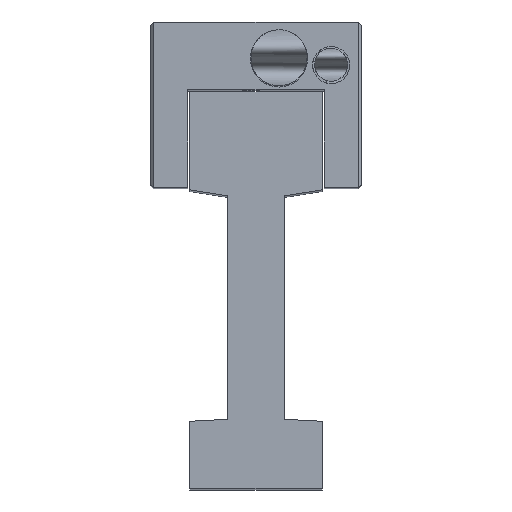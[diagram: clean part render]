
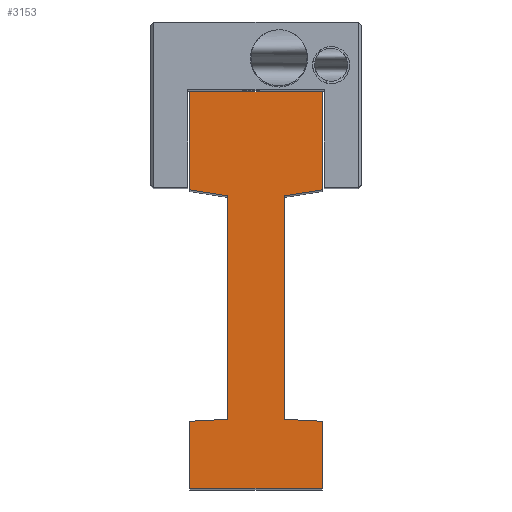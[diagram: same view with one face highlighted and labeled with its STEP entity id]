
A CAD part, top view. The second image highlights one B-rep face of the part: STEP entity #3153.
In plain terms, the highlighted planar face has unit normal (0, 0, 1).
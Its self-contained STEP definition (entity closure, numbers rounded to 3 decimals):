
#399 = CARTESIAN_POINT ( 'NONE',  ( -2.8, -32.7, 0. ) ) ;
#1102 = DIRECTION ( 'NONE',  ( 0., 1., 0. ) ) ;
#1468 = CARTESIAN_POINT ( 'NONE',  ( 2.8, -10.4, 0. ) ) ;
#1545 = ORIENTED_EDGE ( 'NONE', *, *, #14603, .T. ) ;
#1618 = VERTEX_POINT ( 'NONE', #21252 ) ;
#1765 = CARTESIAN_POINT ( 'NONE',  ( 6.6, -32.9, 0. ) ) ;
#3153 = ADVANCED_FACE ( 'NONE', ( #10205 ), #12686, .F. ) ;
#3766 = LINE ( 'NONE', #1765, #32353 ) ;
#4092 = VECTOR ( 'NONE', #12539, 1000. ) ;
#4831 = LINE ( 'NONE', #16476, #18712 ) ;
#5406 = CARTESIAN_POINT ( 'NONE',  ( -2.8, -32.7, 0. ) ) ;
#5704 = DIRECTION ( 'NONE',  ( 0.988, -0.156, 0. ) ) ;
#5815 = EDGE_CURVE ( 'NONE', #28889, #28780, #26200, .T. ) ;
#6283 = DIRECTION ( 'NONE',  ( 0., -1., 0. ) ) ;
#6675 = ORIENTED_EDGE ( 'NONE', *, *, #13195, .T. ) ;
#6865 = DIRECTION ( 'NONE',  ( -1., 0., 0. ) ) ;
#6978 = DIRECTION ( 'NONE',  ( 0., 0., -1. ) ) ;
#7217 = CARTESIAN_POINT ( 'NONE',  ( 0., 0., 0. ) ) ;
#7817 = VERTEX_POINT ( 'NONE', #18096 ) ;
#7960 = DIRECTION ( 'NONE',  ( 0., -1., 0. ) ) ;
#8158 = DIRECTION ( 'NONE',  ( -0.999, -0.053, 0. ) ) ;
#8680 = EDGE_CURVE ( 'NONE', #1618, #27807, #35874, .T. ) ;
#9206 = CARTESIAN_POINT ( 'NONE',  ( -2.8, -10.4, 0. ) ) ;
#9547 = VECTOR ( 'NONE', #1102, 1000. ) ;
#9879 = EDGE_CURVE ( 'NONE', #30664, #27413, #3766, .T. ) ;
#9975 = VECTOR ( 'NONE', #8158, 1000. ) ;
#10129 = CARTESIAN_POINT ( 'NONE',  ( 2.8, -10.4, 0. ) ) ;
#10205 = FACE_OUTER_BOUND ( 'NONE', #11302, .T. ) ;
#11302 = EDGE_LOOP ( 'NONE', ( #13485, #21368, #13544, #1545, #34187, #27231, #32471, #19506, #22745, #34068, #18321, #6675 ) ) ;
#11462 = VECTOR ( 'NONE', #7960, 1000. ) ;
#12131 = AXIS2_PLACEMENT_3D ( 'NONE', #7217, #6978, #6865 ) ;
#12147 = VERTEX_POINT ( 'NONE', #25548 ) ;
#12519 = CARTESIAN_POINT ( 'NONE',  ( 6.6, -9.8, 0. ) ) ;
#12539 = DIRECTION ( 'NONE',  ( 0., -1., 0. ) ) ;
#12654 = CARTESIAN_POINT ( 'NONE',  ( -2.8, -10.4, 0. ) ) ;
#12686 = PLANE ( 'NONE',  #12131 ) ;
#12779 = DIRECTION ( 'NONE',  ( 0., 1., 0. ) ) ;
#13195 = EDGE_CURVE ( 'NONE', #17553, #27085, #22327, .T. ) ;
#13485 = ORIENTED_EDGE ( 'NONE', *, *, #15852, .T. ) ;
#13544 = ORIENTED_EDGE ( 'NONE', *, *, #27717, .T. ) ;
#14001 = DIRECTION ( 'NONE',  ( -1., 0., 0. ) ) ;
#14603 = EDGE_CURVE ( 'NONE', #15313, #28889, #19160, .T. ) ;
#14625 = LINE ( 'NONE', #1468, #35850 ) ;
#14654 = CARTESIAN_POINT ( 'NONE',  ( -6.6, -39.6, 0. ) ) ;
#15166 = LINE ( 'NONE', #22902, #29891 ) ;
#15313 = VERTEX_POINT ( 'NONE', #27325 ) ;
#15852 = EDGE_CURVE ( 'NONE', #27085, #1618, #30777, .T. ) ;
#16476 = CARTESIAN_POINT ( 'NONE',  ( 2.8, -32.7, 0. ) ) ;
#16698 = CARTESIAN_POINT ( 'NONE',  ( -6.6, 0., 0. ) ) ;
#16824 = DIRECTION ( 'NONE',  ( -0.999, 0.053, 0. ) ) ;
#17553 = VERTEX_POINT ( 'NONE', #10129 ) ;
#17670 = CARTESIAN_POINT ( 'NONE',  ( 6.6, 0., 0. ) ) ;
#18096 = CARTESIAN_POINT ( 'NONE',  ( -6.6, -32.9, 0. ) ) ;
#18321 = ORIENTED_EDGE ( 'NONE', *, *, #20263, .T. ) ;
#18712 = VECTOR ( 'NONE', #16824, 1000. ) ;
#18843 = LINE ( 'NONE', #19030, #11462 ) ;
#19030 = CARTESIAN_POINT ( 'NONE',  ( -6.6, 0., 0. ) ) ;
#19160 = LINE ( 'NONE', #22301, #33892 ) ;
#19506 = ORIENTED_EDGE ( 'NONE', *, *, #28471, .T. ) ;
#19930 = CARTESIAN_POINT ( 'NONE',  ( 6.6, -39.6, 0. ) ) ;
#20263 = EDGE_CURVE ( 'NONE', #12147, #17553, #14625, .T. ) ;
#20547 = VECTOR ( 'NONE', #22719, 1000. ) ;
#21158 = VECTOR ( 'NONE', #14001, 1000. ) ;
#21252 = CARTESIAN_POINT ( 'NONE',  ( 6.6, 0., 0. ) ) ;
#21368 = ORIENTED_EDGE ( 'NONE', *, *, #8680, .T. ) ;
#21426 = LINE ( 'NONE', #19930, #20547 ) ;
#22301 = CARTESIAN_POINT ( 'NONE',  ( -6.6, -9.8, 0. ) ) ;
#22327 = LINE ( 'NONE', #12519, #29703 ) ;
#22719 = DIRECTION ( 'NONE',  ( 1., 0., 0. ) ) ;
#22745 = ORIENTED_EDGE ( 'NONE', *, *, #9879, .T. ) ;
#22902 = CARTESIAN_POINT ( 'NONE',  ( -6.6, -32.9, 0. ) ) ;
#22961 = CARTESIAN_POINT ( 'NONE',  ( 6.6, -32.9, 0. ) ) ;
#25548 = CARTESIAN_POINT ( 'NONE',  ( 2.8, -32.7, 0. ) ) ;
#26200 = LINE ( 'NONE', #12654, #4092 ) ;
#26627 = CARTESIAN_POINT ( 'NONE',  ( 6.6, -9.8, 0. ) ) ;
#27085 = VERTEX_POINT ( 'NONE', #26627 ) ;
#27231 = ORIENTED_EDGE ( 'NONE', *, *, #32865, .T. ) ;
#27325 = CARTESIAN_POINT ( 'NONE',  ( -6.6, -9.8, 0. ) ) ;
#27413 = VERTEX_POINT ( 'NONE', #22961 ) ;
#27717 = EDGE_CURVE ( 'NONE', #27807, #15313, #18843, .T. ) ;
#27807 = VERTEX_POINT ( 'NONE', #16698 ) ;
#28471 = EDGE_CURVE ( 'NONE', #32537, #30664, #21426, .T. ) ;
#28780 = VERTEX_POINT ( 'NONE', #399 ) ;
#28889 = VERTEX_POINT ( 'NONE', #9206 ) ;
#29703 = VECTOR ( 'NONE', #31870, 1000. ) ;
#29891 = VECTOR ( 'NONE', #6283, 1000. ) ;
#30569 = CARTESIAN_POINT ( 'NONE',  ( -6.6, 0., 0. ) ) ;
#30664 = VERTEX_POINT ( 'NONE', #33865 ) ;
#30777 = LINE ( 'NONE', #17670, #9547 ) ;
#31350 = EDGE_CURVE ( 'NONE', #27413, #12147, #4831, .T. ) ;
#31870 = DIRECTION ( 'NONE',  ( 0.988, 0.156, 0. ) ) ;
#32065 = LINE ( 'NONE', #5406, #9975 ) ;
#32353 = VECTOR ( 'NONE', #12779, 1000. ) ;
#32471 = ORIENTED_EDGE ( 'NONE', *, *, #33660, .T. ) ;
#32537 = VERTEX_POINT ( 'NONE', #14654 ) ;
#32865 = EDGE_CURVE ( 'NONE', #28780, #7817, #32065, .T. ) ;
#33660 = EDGE_CURVE ( 'NONE', #7817, #32537, #15166, .T. ) ;
#33865 = CARTESIAN_POINT ( 'NONE',  ( 6.6, -39.6, 0. ) ) ;
#33892 = VECTOR ( 'NONE', #5704, 1000. ) ;
#34068 = ORIENTED_EDGE ( 'NONE', *, *, #31350, .T. ) ;
#34187 = ORIENTED_EDGE ( 'NONE', *, *, #5815, .T. ) ;
#34643 = DIRECTION ( 'NONE',  ( 0., 1., 0. ) ) ;
#35850 = VECTOR ( 'NONE', #34643, 1000. ) ;
#35874 = LINE ( 'NONE', #30569, #21158 ) ;
